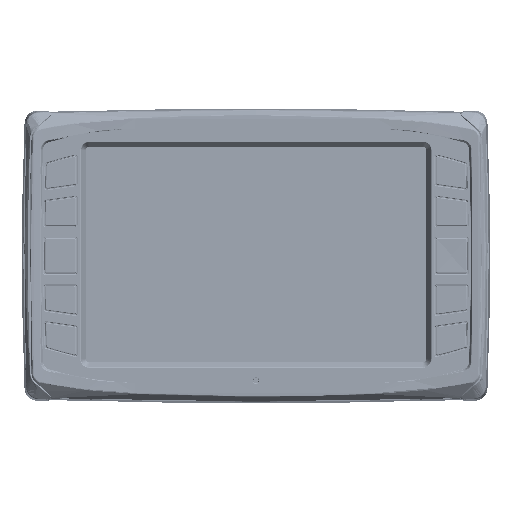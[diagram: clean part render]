
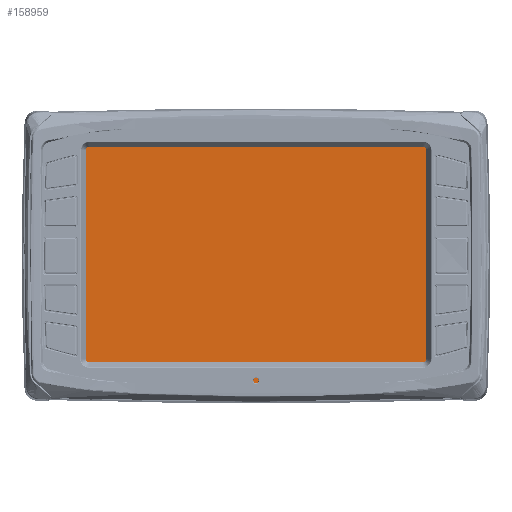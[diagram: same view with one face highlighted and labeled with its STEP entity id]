
A CAD part, top view. The second image highlights one B-rep face of the part: STEP entity #158959.
In plain terms, the highlighted planar face has unit normal (0, 0, 1).
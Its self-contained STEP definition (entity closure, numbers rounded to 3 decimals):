
#1038 = FACE_OUTER_BOUND ( 'NONE', #535878, .T. ) ;
#54541 = CARTESIAN_POINT ( 'NONE',  ( 4.872, -3.424, 0.119 ) ) ;
#127452 = VECTOR ( 'NONE', #226033, 39.37 ) ;
#131766 = EDGE_CURVE ( 'NONE', #372091, #422795, #352453, .T. ) ;
#132042 = VERTEX_POINT ( 'NONE', #598246 ) ;
#134202 = VERTEX_POINT ( 'NONE', #54541 ) ;
#142284 = DIRECTION ( 'NONE',  ( 0., 1., 0. ) ) ;
#158959 = ADVANCED_FACE ( 'NONE', ( #1038 ), #351774, .T. ) ;
#222841 = EDGE_CURVE ( 'NONE', #422795, #132042, #386550, .T. ) ;
#226033 = DIRECTION ( 'NONE',  ( 0., -1., 0. ) ) ;
#246682 = CARTESIAN_POINT ( 'NONE',  ( -4.892, 3.308, 0.119 ) ) ;
#273047 = CARTESIAN_POINT ( 'NONE',  ( -4.892, -3.424, 0.119 ) ) ;
#283527 = ORIENTED_EDGE ( 'NONE', *, *, #310573, .T. ) ;
#301936 = DIRECTION ( 'NONE',  ( 1., 0., 0. ) ) ;
#310573 = EDGE_CURVE ( 'NONE', #134202, #372091, #493525, .T. ) ;
#313662 = LINE ( 'NONE', #273047, #589250 ) ;
#351774 = PLANE ( 'NONE',  #596613 ) ;
#352453 = LINE ( 'NONE', #668947, #441534 ) ;
#372091 = VERTEX_POINT ( 'NONE', #592795 ) ;
#385534 = EDGE_CURVE ( 'NONE', #132042, #134202, #313662, .T. ) ;
#386550 = LINE ( 'NONE', #640283, #127452 ) ;
#422795 = VERTEX_POINT ( 'NONE', #246682 ) ;
#441534 = VECTOR ( 'NONE', #616852, 39.37 ) ;
#454691 = CARTESIAN_POINT ( 'NONE',  ( 4.872, 3.308, 0.119 ) ) ;
#455974 = CARTESIAN_POINT ( 'NONE',  ( -0.01, -0.058, 0.119 ) ) ;
#464138 = ORIENTED_EDGE ( 'NONE', *, *, #222841, .T. ) ;
#466617 = ORIENTED_EDGE ( 'NONE', *, *, #385534, .T. ) ;
#477354 = VECTOR ( 'NONE', #142284, 39.37 ) ;
#493525 = LINE ( 'NONE', #454691, #477354 ) ;
#535878 = EDGE_LOOP ( 'NONE', ( #464138, #466617, #283527, #557306 ) ) ;
#557306 = ORIENTED_EDGE ( 'NONE', *, *, #131766, .T. ) ;
#589250 = VECTOR ( 'NONE', #635189, 39.37 ) ;
#592795 = CARTESIAN_POINT ( 'NONE',  ( 4.872, 3.308, 0.119 ) ) ;
#596613 = AXIS2_PLACEMENT_3D ( 'NONE', #455974, #612165, #301936 ) ;
#598246 = CARTESIAN_POINT ( 'NONE',  ( -4.892, -3.424, 0.119 ) ) ;
#612165 = DIRECTION ( 'NONE',  ( 0., 0., 1. ) ) ;
#616852 = DIRECTION ( 'NONE',  ( -1., 0., 0. ) ) ;
#635189 = DIRECTION ( 'NONE',  ( 1., 0., 0. ) ) ;
#640283 = CARTESIAN_POINT ( 'NONE',  ( -4.892, 3.308, 0.119 ) ) ;
#668947 = CARTESIAN_POINT ( 'NONE',  ( -4.892, 3.308, 0.119 ) ) ;
